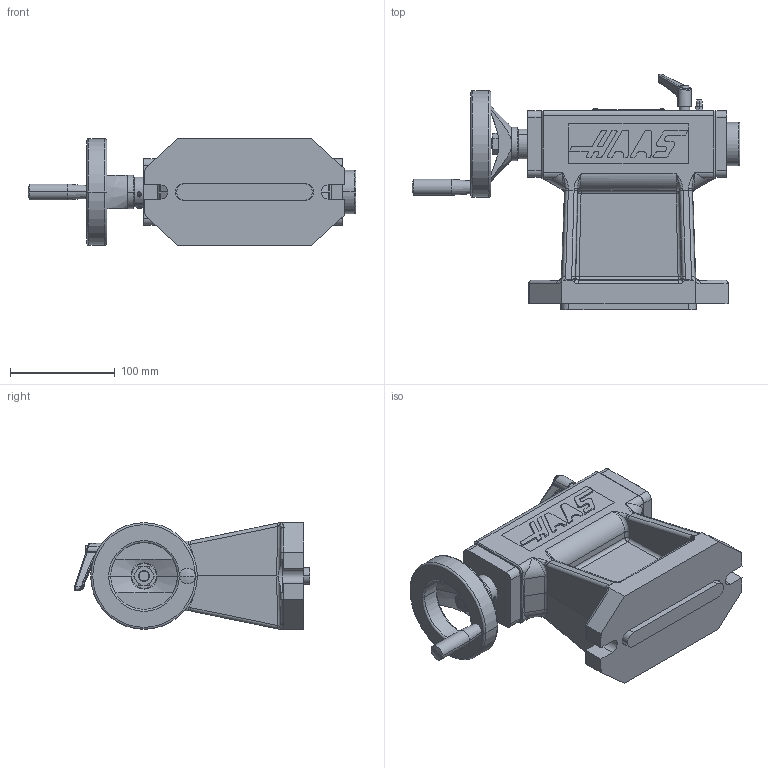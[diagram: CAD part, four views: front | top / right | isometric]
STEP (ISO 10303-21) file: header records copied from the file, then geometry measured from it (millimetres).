
FILE_DESCRIPTION (( 'STEP AP214' ), '1' );
FILE_NAME ('HTS6_STEP_2020-03.x_t.STEP', '2020-03-31T22:26:44', ( '' ), ( '' ), 'SwSTEP 2.0', 'SolidWorks 2019', '' );
FILE_SCHEMA (( 'AUTOMOTIVE_DESIGN' ));
Length unit declared in the file: inch
Products named in the file (1): HTS6_STEP_2020-03.x_t
Bounding box: 312.26 x 224.73 x 101.6 mm (x, y, z)
Volume: 1719774.1 mm3; surface area: 200007.9 mm2
Topology: 1 solids, 2 shells, 773 faces, 2084 edges, 1312 vertices
Faces by surface type: plane 294, cylinder 276, bspline 102, cone 67, sphere 20, torus 14
Entity records: 35554 total; most frequent: CARTESIAN_POINT 13234, ORIENTED_EDGE 4144, DIRECTION 3561, EDGE_CURVE 2072, VERTEX_POINT 1312, AXIS2_PLACEMENT_3D 1280, LINE 1001, VECTOR 1001
